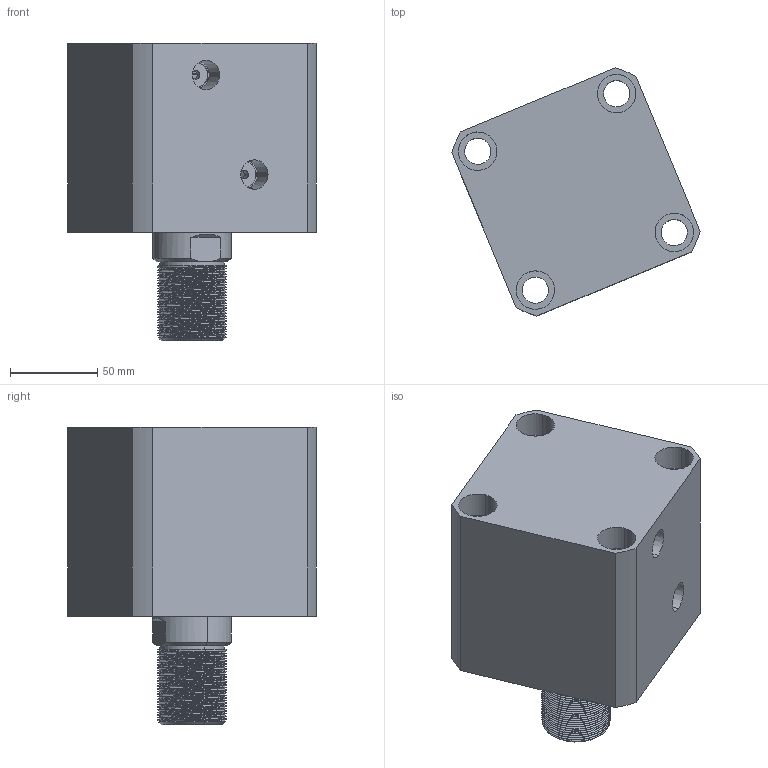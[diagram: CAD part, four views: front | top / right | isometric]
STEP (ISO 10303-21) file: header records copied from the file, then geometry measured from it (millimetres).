
FILE_DESCRIPTION (( 'STEP AP214' ), '1' );
FILE_NAME ('chtb-sd80x30n_asm.STEP', '2018-05-26T09:39:26', ( 'Windows' ), ( 'Microsoft' ), 'SwSTEP 2.0', 'SolidWorks 2015', '' );
FILE_SCHEMA (( 'AUTOMOTIVE_DESIGN' ));
Length unit declared in the file: millimetre
Products named in the file (4): CHTB-SD80X30NHSG; CHTB-SD80X30NBT; CHTB-SD80QG; chtb-sd80x30n_asm
Assembly tree (3 placements, depth 2):
  chtb-sd80x30n_asm
    CHTB-SD80QG
    CHTB-SD80X30NBT
    CHTB-SD80X30NHSG
Bounding box: 142.06 x 142.06 x 170 mm (x, y, z)
Volume: 1238181.8 mm3; surface area: 186866.6 mm2
Topology: 3 solids, 3 shells, 253 faces, 689 edges, 462 vertices
Faces by surface type: cylinder 159, plane 40, cone 20, torus 18, bspline 16
Entity records: 20271 total; most frequent: CARTESIAN_POINT 14293, ORIENTED_EDGE 1370, DIRECTION 1078, EDGE_CURVE 685, VERTEX_POINT 462, AXIS2_PLACEMENT_3D 439, EDGE_LOOP 291, FACE_OUTER_BOUND 253
